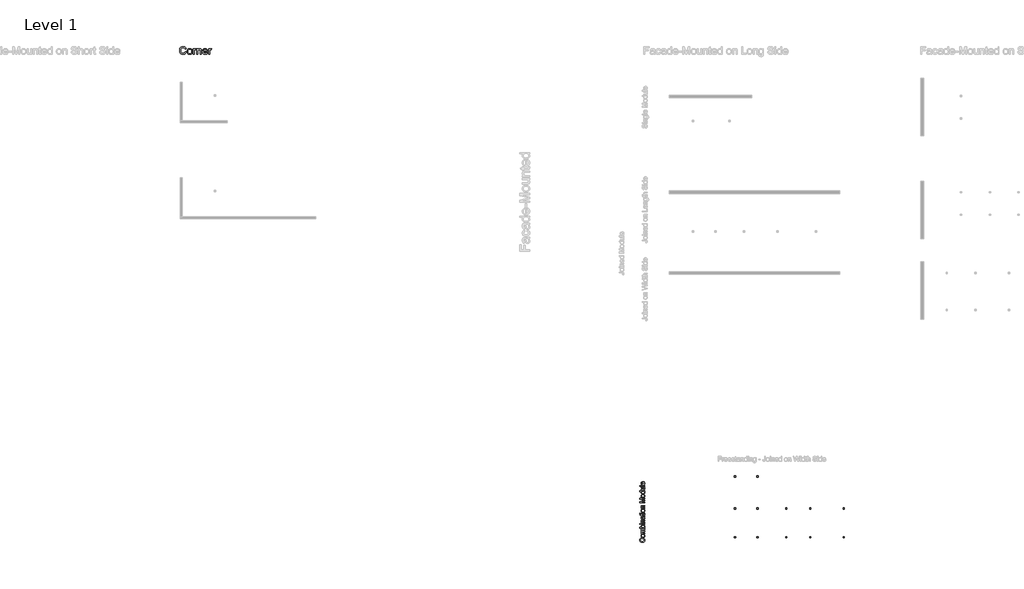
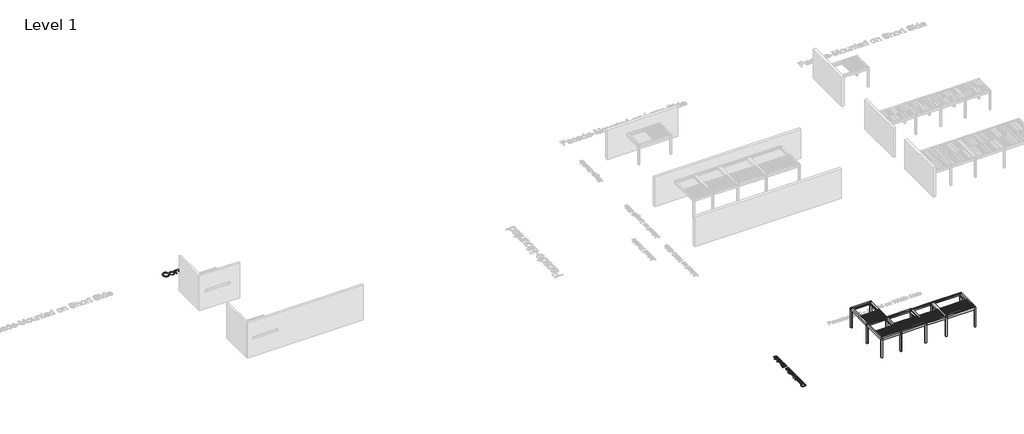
# One storey, part 14 of 69: 4 proxies.
"""IFC4 building model written with IfcOpenShell, lengths in millimetres."""

from ifc_helpers import new_model, si_unit, origin, origin_with_axes, place, context, project, spatial, polyline, outline, extrude, transform, mapped, element, save
from components import generic_models_b0ae86b7, generic_models_a6fa8a10

model = new_model("IFC4")

# Units and contexts
model_context = context("Model", 3, world=origin())
ifc_project = project(units=[si_unit("LENGTHUNIT", "METRE", prefix="MILLI")], contexts=[model_context])

# Site, building, storey
site = spatial("IfcSite", under=ifc_project)
building = spatial("IfcBuilding", under=site)
storey = spatial("IfcBuildingStorey", under=building, Name="Level 1", Elevation=0.0)

# Proxies
placement = place(None, origin())
generic_models_shape = generic_models_b0ae86b7(model_context)
element("IfcBuildingElementProxy", 1, Name="Renson_Camargue_Skye_Facade-Mounted_Patio covers : Renson_Camargue_Skye_Facade-Mounted_Patio covers", ObjectType="Renson_Camargue_Skye_Facade-Mounted_Patio covers : Renson_Camargue_Skye_Facade-Mounted_Patio covers", at=placement, inside=storey, context=model_context, shape_type="MappedRepresentation", body=[
    mapped(generic_models_shape, transform((95863.165057, -54081.4138599, 0.0), x_axis=(1.0, 0.0, 0.0), y_axis=(0.0, 1.0, 0.0), z_axis=(0.0, 0.0, 1.0))),
])
generic_models_2_shape = generic_models_a6fa8a10(model_context)
element("IfcBuildingElementProxy", 2, Name="Renson_Camargue_Skye_Freestanding_Patio covers : Renson_Camargue_Skye_Freestanding_Patio covers", ObjectType="Renson_Camargue_Skye_Freestanding_Patio covers : Renson_Camargue_Skye_Freestanding_Patio covers", at=placement, inside=storey, context=model_context, shape_type="MappedRepresentation", body=[
    mapped(generic_models_2_shape, transform((93188.165057, -50906.4138599, 0.0), x_axis=(0.0, -1.0, 0.0), y_axis=(1.0, 0.0, 0.0), z_axis=(0.0, 0.0, 1.0))),
])
element("IfcBuildingElementProxy", 3, Name="500mm Arial", ObjectType="500mm Arial", at=placement, inside=storey, context=model_context, shape_type="SweptSolid", body=[
    extrude(outline(polyline([(82403.8045167, -55731.447711), (82419.9913244, -55668.6625171), (82459.0366333, -55681.0861987), (82493.1538562, -55697.6332242), (82522.3429933, -55718.3035938), (82546.6040445, -55743.0973075), (82565.6764266, -55771.4548779), (82579.2995568, -55802.816818), (82587.4734349, -55837.1831277), (82590.1980609, -55874.5538071), (82588.1363889, -55912.8403593), (82581.9513728, -55947.3791137), (82571.6430127, -55978.1700703), (82557.2113086, -56005.213229), (82538.8708583, -56028.8803041), (82516.8362597, -56049.5430095), (82491.1075126, -56067.2013452), (82461.6846172, -56081.8553114), (82429.839832, -56093.36312), (82396.8454156, -56101.5829834), (82362.7013679, -56106.5149014), (82327.407689, -56108.158874), (82289.5388361, -56106.3003035), (82254.1685151, -56100.724592), (82221.296726, -56091.4317395), (82190.9234688, -56078.4217461), (82163.5507491, -56061.9858515), (82139.6805725, -56042.4152958), (82119.3129392, -56019.7100789), (82102.4478489, -55993.8702008), (82089.2232576, -55965.7732135), (82079.777121, -55936.2966686), (82074.109439, -55905.4405663), (82072.2202117, -55873.2049064), (82074.6650941, -55837.2942588), (82081.9997414, -55804.3649881), (82094.2241535, -55774.4170944), (82111.3383305, -55747.4505777), (82132.890084, -55723.9099622), (82158.4272259, -55704.2397717), (82187.949756, -55688.4400065), (82221.4576744, -55676.5106663), (82236.4182089, -55739.2958602), (82211.727962, -55749.1826888), (82190.6322289, -55761.0622116), (82173.1310094, -55774.9344285), (82159.2243035, -55790.7993395), (82148.6285357, -55808.7489152), (82141.06013, -55828.875126), (82136.5190866, -55851.177972), (82135.0054055, -55875.6574531), (82136.6838671, -55903.8234183), (82141.7192519, -55929.5828222), (82150.1115599, -55952.9356647), (82161.8607912, -55973.8819458), (82176.4381152, -55992.1572503), (82193.3147018, -56007.4971631), (82212.4905508, -56019.9016841), (82233.9656622, -56029.3708134), (82279.9202548, -56041.3729635), (82327.2850617, -56045.3736802), (82385.2877896, -56040.6371995), (82435.4423682, -56026.4277574), (82457.0975886, -56015.6365522), (82475.8327456, -56002.2088594), (82491.6478393, -55986.1446789), (82504.5428697, -55967.4440109), (82521.6953677, -55925.7660465), (82527.412867, -55880.807801), (82525.4661581, -55853.5117234), (82519.6260315, -55828.3999451), (82509.892487, -55805.4724662), (82496.2655248, -55784.7292866), (82478.8064584, -55766.6609157), (82457.5766016, -55751.7578628), (82432.5759544, -55740.0201279), (82403.8045167, -55731.447711)])), origin_with_axes(), (0.0, 0.0, 1.0), 5.0),
    extrude(outline(polyline([(82397.9184047, -55605.8773233), (82350.1473948, -55602.482079), (82308.9829324, -55592.2963463), (82274.4250175, -55575.320125), (82246.4736501, -55551.5534153), (82228.6083807, -55527.6257572), (82215.847474, -55501.2148956), (82208.1909299, -55472.3208306), (82205.6387486, -55440.9435621), (82208.746585, -55406.305173), (82218.0700943, -55374.985386), (82233.6092765, -55346.9842013), (82255.3641316, -55322.3016187), (82282.5988956, -55302.1562473), (82314.5778044, -55287.7666964), (82351.3008582, -55279.1329658), (82392.7680568, -55276.2550556), (82456.1970441, -55281.3440899), (82482.2323595, -55287.7053827), (82504.481556, -55296.6111927), (82523.6995581, -55307.9503887), (82540.6412904, -55321.6118399), (82555.3067529, -55337.5955462), (82567.6959455, -55355.9015075), (82584.572532, -55396.6291101), (82590.1980609, -55440.9435621), (82587.1017208, -55476.0877889), (82577.8127004, -55507.6988158), (82562.3309997, -55535.7766427), (82540.6566189, -55560.3212695), (82513.1574397, -55580.252043), (82480.2013443, -55594.4883098), (82441.7883327, -55603.0300699), (82397.9184047, -55605.8773233)]), holes=[polyline([(82397.7957774, -55543.0921294), (82428.2495088, -55541.2757121), (82454.6182172, -55535.82646), (82476.9019027, -55526.7443733), (82495.1005651, -55514.0294518), (82509.2371972, -55498.5630796), (82519.3347916, -55481.2266406), (82525.3933482, -55462.0201347), (82527.412867, -55440.9435621), (82525.3818519, -55419.9742884), (82519.2888063, -55400.8444246), (82509.1337304, -55383.5539708), (82494.9166241, -55368.1029271), (82476.5378528, -55355.3880056), (82453.8977817, -55346.3059188), (82426.9964108, -55340.8566668), (82395.8337401, -55339.0402494), (82366.3456989, -55340.8681631), (82340.6667692, -55346.3519041), (82318.796951, -55355.4914724), (82300.7362443, -55368.286868), (82286.5996123, -55383.7953934), (82276.5020179, -55401.0743509), (82270.4434613, -55420.1237404), (82268.4239424, -55440.9435621), (82270.4357971, -55462.0201347), (82276.4713611, -55481.2266406), (82286.5306344, -55498.5630796), (82300.613617, -55514.0294518), (82318.75863, -55526.7443733), (82341.0039944, -55535.82646), (82367.3497102, -55541.2757121), (82397.7957774, -55543.0921294)])]), origin_with_axes(), (0.0, 0.0, 1.0), 5.0),
    extrude(outline(polyline([(82582.3499117, -55205.6217125), (82213.4868978, -55205.6217125), (82213.4868978, -55142.8365187), (82274.187427, -55142.8365187), (82246.3050375, -55123.9519096), (82224.462044, -55099.6716979), (82210.3445724, -55070.8236181), (82205.6387486, -55038.2354047), (82210.4365429, -55003.317272), (82224.829926, -54975.3275835), (82247.868536, -54954.4196235), (82278.602011, -54940.746676), (82246.6805837, -54917.8613502), (82223.8795642, -54891.757057), (82210.1989525, -54862.4337963), (82205.6387486, -54829.8915681), (82207.5356401, -54804.7567972), (82213.2263147, -54782.6953738), (82222.7107724, -54763.7072979), (82235.9890132, -54747.7925695), (82253.2143212, -54735.2117717), (82274.5399806, -54726.2254876), (82299.9659914, -54720.8337171), (82329.4923536, -54719.0364602), (82582.3499117, -54719.0364602), (82582.3499117, -54781.8216541), (82356.4703666, -54781.8216541), (82325.1544118, -54783.2778536), (82304.0471823, -54787.6464523), (82289.5924856, -54795.8318267), (82278.234129, -54808.7383534), (82270.8764891, -54825.3390284), (82268.4239424, -54844.6068479), (82269.9951051, -54862.3993073), (82274.7085932, -54878.6206041), (82282.5644066, -54893.2707381), (82293.5625454, -54906.3497094), (82308.0249064, -54917.1064257), (82326.2733862, -54924.7897944), (82348.3079848, -54929.3998157), (82374.1287024, -54930.9364895), (82582.3499117, -54930.9364895), (82582.3499117, -54993.7216833), (82349.4806087, -54993.7216833), (82313.9799962, -54997.354518), (82288.6574522, -55008.2530221), (82279.8052917, -55016.6798191), (82273.4823199, -55027.4288711), (82268.4239424, -55055.8937405), (82271.7961941, -55080.0819817), (82281.9129489, -55102.3694992), (82298.5289524, -55120.763599), (82321.3989497, -55133.2715868), (82353.1287718, -55140.4452857), (82396.3242494, -55142.8365187), (82582.3499117, -55142.8365187), (82582.3499117, -55205.6217125)])), origin_with_axes(), (0.0, 0.0, 1.0), 5.0),
    extrude(outline(polyline([(82582.3499117, -54562.0734756), (82582.3499117, -54624.8586695), (82080.0683609, -54624.8586695), (82080.0683609, -54562.0734756), (82266.3392778, -54562.0734756), (82239.7827963, -54541.4260986), (82220.8138809, -54518.1115772), (82209.4325317, -54492.1299113), (82205.6387486, -54463.4811009), (82209.0569855, -54431.1381422), (82219.3116961, -54400.5732797), (82235.7590869, -54373.5339531), (82257.7553646, -54351.7676017), (82285.0859311, -54334.7070742), (82317.5361888, -54321.7852191), (82353.7572369, -54313.64583), (82392.4001748, -54310.9327002), (82436.9905383, -54313.7416326), (82476.215956, -54322.1684295), (82510.076428, -54336.2130911), (82538.5719542, -54355.8756173), (82561.1583759, -54379.4775466), (82577.2915342, -54405.3404173), (82586.9714292, -54433.4642294), (82590.1980609, -54463.8489829), (82586.0363958, -54493.4404909), (82573.5514006, -54519.6750757), (82552.7430752, -54542.5527373), (82523.6114198, -54562.0734756), (82582.3499117, -54562.0734756)]), holes=[polyline([(82395.3432308, -54562.0734756), (82447.7051014, -54557.781519), (82467.5400723, -54552.4165732), (82483.1444003, -54544.9056492), (82502.5118545, -54529.6921958), (82516.3457503, -54512.0108674), (82524.6460879, -54491.861664), (82527.412867, -54469.2445855), (82525.3741876, -54450.4672753), (82519.2581495, -54433.008209), (82509.0647525, -54416.8673864), (82494.7939968, -54402.0448077), (82476.4842033, -54389.651783), (82454.1736932, -54380.7996225), (82427.8624663, -54375.4883262), (82397.5505227, -54373.7178941), (82366.6637636, -54375.4155162), (82340.0996178, -54380.5083826), (82317.8580855, -54388.9964932), (82299.9391667, -54400.8798481), (82286.1512561, -54415.1697643), (82276.3027485, -54430.8775591), (82270.3936439, -54448.0032324), (82268.4239424, -54466.5467842), (82270.4626218, -54485.3240944), (82276.57866, -54502.7831607), (82286.7720569, -54518.9239833), (82301.0428127, -54533.746562), (82319.1686651, -54546.1395867), (82340.9273523, -54554.9917472), (82366.3188742, -54560.3030435), (82395.3432308, -54562.0734756)])]), origin_with_axes(), (0.0, 0.0, 1.0), 5.0),
    extrude(outline(polyline([(82582.3499117, -54240.2993572), (82213.4868978, -54240.2993572), (82213.4868978, -54177.5141633), (82582.3499117, -54177.5141633), (82582.3499117, -54240.2993572)])), origin_with_axes(), (0.0, 0.0, 1.0), 5.0),
    extrude(outline(polyline([(82142.8535547, -54240.2993572), (82080.0683609, -54240.2993572), (82080.0683609, -54177.5141633), (82142.8535547, -54177.5141633), (82142.8535547, -54240.2993572)])), origin_with_axes(), (0.0, 0.0, 1.0), 5.0),
    extrude(outline(polyline([(82582.3499117, -54083.3363726), (82213.4868978, -54083.3363726), (82213.4868978, -54020.5511787), (82264.9903771, -54020.5511787), (82239.0240397, -53998.7388421), (82220.4766557, -53972.5425783), (82209.3482254, -53941.9623875), (82205.6387486, -53906.9982695), (82208.6277898, -53876.0501967), (82217.5949134, -53847.7079547), (82231.4211451, -53824.0715365), (82248.9875104, -53807.2409352), (82270.248024, -53795.8212649), (82295.1567007, -53788.4176398), (82355.85723, -53785.1067018), (82582.3499117, -53785.1067018), (82582.3499117, -53847.8918957), (82364.3185158, -53847.8918957), (82331.8529298, -53849.7006488), (82308.7683346, -53855.1269082), (82292.2289732, -53865.1363642), (82279.3990886, -53880.6947069), (82271.167729, -53900.6369767), (82268.4239424, -53923.798214), (82269.9644483, -53942.862932), (82274.5859659, -53960.5710851), (82282.2884951, -53976.9226734), (82293.0720361, -53991.9176968), (82308.1628621, -54004.4448451), (82328.7872465, -54013.3928082), (82354.9451892, -54018.7615861), (82386.6366902, -54020.5511787), (82582.3499117, -54020.5511787), (82582.3499117, -54083.3363726)])), origin_with_axes(), (0.0, 0.0, 1.0), 5.0),
    extrude(outline(polyline([(82535.2610163, -53463.3325834), (82560.9820991, -53493.3302944), (82577.8127004, -53524.2170536), (82587.1017208, -53556.6979681), (82590.1980609, -53591.478145), (82588.3356583, -53619.4333445), (82582.7484505, -53643.9473146), (82573.4364375, -53665.0200551), (82560.3996193, -53682.6515661), (82544.4657304, -53696.5736004), (82526.4625052, -53706.5179106), (82506.3899439, -53712.4844967), (82484.2480463, -53714.4733587), (82458.2203951, -53711.4689891), (82434.5839769, -53702.4558802), (82414.3504672, -53688.5530065), (82398.5315414, -53670.8793423), (82386.5753766, -53650.109338), (82377.9301497, -53626.9174439), (82368.4878451, -53572.5935359), (82358.5550313, -53508.3981278), (82346.9054347, -53463.7004654), (82332.9259189, -53463.3325834), (82304.9055736, -53467.6551968), (82286.5727875, -53480.6230371), (82278.6326678, -53493.6981764), (82272.9611537, -53509.6244011), (82268.4239424, -53550.0301069), (82271.4436405, -53587.4314431), (82280.5027346, -53613.5510647), (82297.2566938, -53631.3626847), (82323.360987, -53643.8400157), (82315.5128378, -53706.6252095), (82281.1771849, -53695.7267054), (82254.199172, -53679.4632555), (82233.5671234, -53656.3173467), (82218.2693638, -53624.7714656), (82208.7964024, -53586.1898413), (82205.6387486, -53541.936703), (82208.4285204, -53499.4923178), (82216.7978358, -53465.8464437), (82229.3824657, -53440.4779144), (82244.8181811, -53422.8655639), (82263.9020596, -53411.1853105), (82287.4311789, -53403.6130728), (82342.3682235, -53400.5473895), (82420.4818338, -53400.5473895), (82529.5588453, -53397.3590789), (82556.5215299, -53392.6379266), (82582.3499117, -53384.8510911), (82582.3499117, -53447.6362849), (82560.5222466, -53457.6917261), (82535.2610163, -53463.3325834)]), holes=[polyline([(82409.6906286, -53463.3325834), (82420.1446086, -53505.5163855), (82428.9431197, -53564.6227594), (82439.1211882, -53618.640099), (82446.0802893, -53632.6962569), (82455.675878, -53643.1042517), (82467.1721903, -53649.5421866), (82479.8334623, -53651.6881649), (82498.5034736, -53647.0129979), (82513.8012332, -53632.9874968), (82524.0099586, -53609.91823), (82527.412867, -53578.1117659), (82523.657405, -53544.3892496), (82512.3910189, -53514.590808), (82495.7903439, -53490.4332237), (82476.032015, -53473.6332792), (82455.675878, -53466.1836688), (82427.4715917, -53463.7004654), (82409.6906286, -53463.3325834)])]), origin_with_axes(), (0.0, 0.0, 1.0), 5.0),
    extrude(outline(polyline([(82529.988041, -53180.7992111), (82584.1893216, -53172.9510618), (82590.1980609, -53219.9173299), (82587.5922301, -53250.0529967), (82579.7747377, -53272.5244552), (82567.7266023, -53288.4046947), (82552.4288427, -53298.7667042), (82526.1559369, -53304.4688751), (82481.182363, -53306.3695987), (82276.2720917, -53306.3695987), (82276.2720917, -53353.4584941), (82213.4868978, -53353.4584941), (82213.4868978, -53306.3695987), (82123.8463183, -53306.3695987), (82086.9354915, -53243.5844049), (82213.4868978, -53243.5844049), (82213.4868978, -53180.7992111), (82276.2720917, -53180.7992111), (82276.2720917, -53243.5844049), (82479.342953, -53243.5844049), (82511.7165686, -53240.2734669), (82523.1822241, -53229.5435754), (82527.412867, -53208.145106), (82529.988041, -53180.7992111)])), origin_with_axes(), (0.0, 0.0, 1.0), 5.0),
    extrude(outline(polyline([(82582.3499117, -53118.0140172), (82213.4868978, -53118.0140172), (82213.4868978, -53055.2288234), (82582.3499117, -53055.2288234), (82582.3499117, -53118.0140172)])), origin_with_axes(), (0.0, 0.0, 1.0), 5.0),
    extrude(outline(polyline([(82142.8535547, -53118.0140172), (82080.0683609, -53118.0140172), (82080.0683609, -53055.2288234), (82142.8535547, -53055.2288234), (82142.8535547, -53118.0140172)])), origin_with_axes(), (0.0, 0.0, 1.0), 5.0),
    extrude(outline(polyline([(82397.9184047, -52976.7473311), (82350.1473948, -52973.3520868), (82308.9829324, -52963.1663541), (82274.4250175, -52946.1901328), (82246.4736501, -52922.4234231), (82228.6083807, -52898.495765), (82215.847474, -52872.0849034), (82208.1909299, -52843.1908384), (82205.6387486, -52811.8135699), (82208.746585, -52777.1751808), (82218.0700943, -52745.8553938), (82233.6092765, -52717.8542091), (82255.3641316, -52693.1716265), (82282.5988956, -52673.0262551), (82314.5778044, -52658.6367042), (82351.3008582, -52650.0029736), (82392.7680568, -52647.1250634), (82456.1970441, -52652.2140977), (82482.2323595, -52658.5753905), (82504.481556, -52667.4812005), (82523.6995581, -52678.8203965), (82540.6412904, -52692.4818477), (82555.3067529, -52708.465554), (82567.6959455, -52726.7715153), (82584.572532, -52767.4991179), (82590.1980609, -52811.8135699), (82587.1017208, -52846.9577968), (82577.8127004, -52878.5688236), (82562.3309997, -52906.6466505), (82540.6566189, -52931.1912773), (82513.1574397, -52951.1220508), (82480.2013443, -52965.3583176), (82441.7883327, -52973.9000777), (82397.9184047, -52976.7473311)]), holes=[polyline([(82397.7957774, -52913.9621372), (82428.2495088, -52912.1457199), (82454.6182172, -52906.6964678), (82476.9019027, -52897.6143811), (82495.1005651, -52884.8994596), (82509.2371972, -52869.4330874), (82519.3347916, -52852.0966484), (82525.3933482, -52832.8901425), (82527.412867, -52811.8135699), (82525.3818519, -52790.8442962), (82519.2888063, -52771.7144324), (82509.1337304, -52754.4239787), (82494.9166241, -52738.9729349), (82476.5378528, -52726.2580134), (82453.8977817, -52717.1759266), (82426.9964108, -52711.7266746), (82395.8337401, -52709.9102572), (82366.3456989, -52711.7381709), (82340.6667692, -52717.2219119), (82318.796951, -52726.3614802), (82300.7362443, -52739.1568759), (82286.5996123, -52754.6654012), (82276.5020179, -52771.9443587), (82270.4434613, -52790.9937482), (82268.4239424, -52811.8135699), (82270.4357971, -52832.8901425), (82276.4713611, -52852.0966484), (82286.5306344, -52869.4330874), (82300.613617, -52884.8994596), (82318.75863, -52897.6143811), (82341.0039944, -52906.6964678), (82367.3497102, -52912.1457199), (82397.7957774, -52913.9621372)])]), origin_with_axes(), (0.0, 0.0, 1.0), 5.0),
    extrude(outline(polyline([(82582.3499117, -52576.4917203), (82213.4868978, -52576.4917203), (82213.4868978, -52513.7065265), (82264.9903771, -52513.7065265), (82239.0240397, -52491.8941898), (82220.4766557, -52465.6979261), (82209.3482254, -52435.1177353), (82205.6387486, -52400.1536173), (82208.6277898, -52369.2055445), (82217.5949134, -52340.8633024), (82231.4211451, -52317.2268842), (82248.9875104, -52300.3962829), (82270.248024, -52288.9766127), (82295.1567007, -52281.5729875), (82355.85723, -52278.2620496), (82582.3499117, -52278.2620496), (82582.3499117, -52341.0472434), (82364.3185158, -52341.0472434), (82331.8529298, -52342.8559965), (82308.7683346, -52348.282256), (82292.2289732, -52358.2917119), (82279.3990886, -52373.8500546), (82271.167729, -52393.7923245), (82268.4239424, -52416.9535617), (82269.9644483, -52436.0182797), (82274.5859659, -52453.7264328), (82282.2884951, -52470.0780211), (82293.0720361, -52485.0730445), (82308.1628621, -52497.6001929), (82328.7872465, -52506.548156), (82354.9451892, -52511.9169339), (82386.6366902, -52513.7065265), (82582.3499117, -52513.7065265), (82582.3499117, -52576.4917203)])), origin_with_axes(), (0.0, 0.0, 1.0), 5.0),
    extrude(outline(polyline([(82582.3499117, -51987.880528), (82080.0683609, -51987.880528), (82080.0683609, -51879.8458488), (82434.0934676, -51777.0841448), (82508.0377486, -51756.3601257), (82427.962101, -51733.919324), (82080.0683609, -51632.8744027), (82080.0683609, -51524.8397234), (82582.3499117, -51524.8397234), (82582.3499117, -51587.6249173), (82142.8535547, -51587.6249173), (82582.3499117, -51713.8084416), (82582.3499117, -51798.9118098), (82142.8535547, -51925.0953342), (82582.3499117, -51925.0953342), (82582.3499117, -51987.880528)])), origin_with_axes(), (0.0, 0.0, 1.0), 5.0),
    extrude(outline(polyline([(82397.9184047, -51438.5100819), (82350.1473948, -51435.1148377), (82308.9829324, -51424.9291049), (82274.4250175, -51407.9528837), (82246.4736501, -51384.186174), (82228.6083807, -51360.2585158), (82215.847474, -51333.8476543), (82208.1909299, -51304.9535892), (82205.6387486, -51273.5763207), (82208.746585, -51238.9379316), (82218.0700943, -51207.6181447), (82233.6092765, -51179.6169599), (82255.3641316, -51154.9343773), (82282.5988956, -51134.789006), (82314.5778044, -51120.399455), (82351.3008582, -51111.7657244), (82392.7680568, -51108.8878142), (82456.1970441, -51113.9768485), (82482.2323595, -51120.3381413), (82504.481556, -51129.2439513), (82523.6995581, -51140.5831474), (82540.6412904, -51154.2445985), (82555.3067529, -51170.2283048), (82567.6959455, -51188.5342662), (82584.572532, -51229.2618687), (82590.1980609, -51273.5763207), (82587.1017208, -51308.7205476), (82577.8127004, -51340.3315744), (82562.3309997, -51368.4094013), (82540.6566189, -51392.9540282), (82513.1574397, -51412.8848017), (82480.2013443, -51427.1210685), (82441.7883327, -51435.6628285), (82397.9184047, -51438.5100819)]), holes=[polyline([(82397.7957774, -51375.7248881), (82428.2495088, -51373.9084707), (82454.6182172, -51368.4592187), (82476.9019027, -51359.3771319), (82495.1005651, -51346.6622104), (82509.2371972, -51331.1958382), (82519.3347916, -51313.8593992), (82525.3933482, -51294.6528934), (82527.412867, -51273.5763207), (82525.3818519, -51252.607047), (82519.2888063, -51233.4771833), (82509.1337304, -51216.1867295), (82494.9166241, -51200.7356857), (82476.5378528, -51188.0207642), (82453.8977817, -51178.9386775), (82426.9964108, -51173.4894254), (82395.8337401, -51171.6730081), (82366.3456989, -51173.5009217), (82340.6667692, -51178.9846627), (82318.796951, -51188.124231), (82300.7362443, -51200.9196267), (82286.5996123, -51216.428152), (82276.5020179, -51233.7071095), (82270.4434613, -51252.7564991), (82268.4239424, -51273.5763207), (82270.4357971, -51294.6528934), (82276.4713611, -51313.8593992), (82286.5306344, -51331.1958382), (82300.613617, -51346.6622104), (82318.75863, -51359.3771319), (82341.0039944, -51368.4592187), (82367.3497102, -51373.9084707), (82397.7957774, -51375.7248881)])]), origin_with_axes(), (0.0, 0.0, 1.0), 5.0),
    extrude(outline(polyline([(82582.3499117, -50810.6581435), (82523.1209104, -50810.6581435), (82552.4671638, -50829.4431178), (82573.4287733, -50852.1981521), (82586.005739, -50878.9232462), (82590.1980609, -50909.6184002), (82584.128008, -50950.208047), (82565.9178492, -50987.3641285), (82536.8398432, -51018.8180391), (82498.1662484, -51042.3011731), (82451.4605635, -51056.9244824), (82398.2862867, -51061.7989188), (82345.7711319, -51057.3076928), (82298.3450114, -51043.8340147), (82277.2147893, -51033.7325883), (82258.7057264, -51021.393213), (82242.8178227, -51006.815889), (82229.5510783, -50990.0006161), (82211.616831, -50952.0321285), (82205.6387486, -50909.8636548), (82209.9153768, -50879.1455082), (82222.7452614, -50851.9835543), (82242.4116197, -50828.9602727), (82267.1976691, -50810.6581435), (82080.0683609, -50810.6581435), (82080.0683609, -50747.8729496), (82582.3499117, -50747.8729496), (82582.3499117, -50810.6581435)]), holes=[polyline([(82398.0410321, -50999.013725), (82428.4870993, -50997.2432929), (82454.8328151, -50991.9319966), (82477.0781795, -50983.0798361), (82495.2231925, -50970.6868114), (82509.3061751, -50955.8872253), (82519.3654484, -50939.8153806), (82525.4010124, -50922.4712774), (82527.412867, -50903.8549156), (82525.4929829, -50885.1504154), (82519.7333304, -50867.909779), (82510.1339096, -50852.1330063), (82496.6947204, -50837.8200974), (82479.3084641, -50825.9367426), (82457.8678415, -50817.448632), (82432.3728528, -50812.3557656), (82402.823498, -50810.6581435), (82370.4268898, -50812.3864224), (82342.644135, -50817.5712593), (82319.4752335, -50826.2126541), (82300.9201853, -50838.3106068), (82286.7030791, -50852.9377482), (82276.5480032, -50869.1667091), (82270.4549576, -50886.9974896), (82268.4239424, -50906.4300895), (82270.3744834, -50925.4143333), (82276.2261064, -50942.7584366), (82285.9788114, -50958.4623992), (82299.6325984, -50972.5262213), (82317.4863714, -50984.1145042), (82339.8390347, -50992.3918491), (82366.6905883, -50997.358256), (82398.0410321, -50999.013725)])]), origin_with_axes(), (0.0, 0.0, 1.0), 5.0),
    extrude(outline(polyline([(82582.3499117, -50418.2506819), (82518.9515811, -50418.2506819), (82550.121916, -50440.9673952), (82572.3864409, -50467.424242), (82585.7451559, -50497.6212224), (82590.1980609, -50531.5583365), (82587.0710639, -50562.1385273), (82577.690073, -50590.6033967), (82563.5879299, -50614.4850695), (82546.2974761, -50631.3156708), (82525.2975456, -50642.6433706), (82500.0669721, -50650.0163389), (82441.6963622, -50653.6951589), (82213.4868978, -50653.6951589), (82213.4868978, -50590.909965), (82412.1431752, -50590.909965), (82476.1546424, -50587.1085177), (82497.5071265, -50577.9574531), (82513.7399196, -50562.2764831), (82523.9946302, -50541.1079399), (82527.412867, -50515.494156), (82523.9179881, -50488.4088441), (82513.4333512, -50463.0709717), (82496.9246467, -50442.1783401), (82475.3575647, -50428.4287505), (82445.8197062, -50420.7951991), (82405.398672, -50418.2506819), (82213.4868978, -50418.2506819), (82213.4868978, -50355.4654881), (82582.3499117, -50355.4654881), (82582.3499117, -50418.2506819)])), origin_with_axes(), (0.0, 0.0, 1.0), 5.0),
    extrude(outline(polyline([(82582.3499117, -50269.1358466), (82080.0683609, -50269.1358466), (82080.0683609, -50206.3506527), (82582.3499117, -50206.3506527), (82582.3499117, -50269.1358466)])), origin_with_axes(), (0.0, 0.0, 1.0), 5.0),
    extrude(outline(polyline([(82472.4758224, -49853.9197013), (82480.3239717, -49792.3607808), (82504.9797295, -49801.7992533), (82526.7077599, -49814.5409994), (82545.5080627, -49830.5860194), (82561.3806379, -49849.9343131), (82573.9882605, -49872.3866111), (82582.9937051, -49897.743644), (82588.3969719, -49926.0054119), (82590.1980609, -49957.1719147), (82587.0902244, -49996.1290851), (82577.7667151, -50030.8402842), (82562.2275329, -50061.3055119), (82540.4726779, -50087.5247683), (82513.1076224, -50108.6090051), (82480.7378389, -50123.6691743), (82443.3633275, -50132.7052758), (82400.984088, -50135.7173097), (82357.1678096, -50132.674619), (82318.5478643, -50123.546547), (82285.1242522, -50108.3330936), (82256.8969733, -50087.034259), (82234.4715, -50060.8839805), (82218.4533048, -50031.1161957), (82208.8423876, -49997.7309046), (82205.6387486, -49960.7281073), (82208.8347234, -49924.9170943), (82218.4226479, -49892.5319824), (82234.4025221, -49863.5727716), (82256.7743459, -49838.0394619), (82284.9403112, -49817.1966476), (82318.3026096, -49802.3089231), (82356.8612412, -49793.3762884), (82400.616206, -49790.3987435), (82417.5387778, -49790.7666255), (82417.5387778, -50072.9321158), (82442.5930745, -50069.295449), (82464.5357027, -50062.0642685), (82483.3666623, -50051.2385744), (82499.0859534, -50036.8183666), (82511.4789781, -50019.6007228), (82520.3311386, -50000.3827207), (82525.6424349, -49979.1643602), (82527.412867, -49955.9456413), (82524.1325859, -49922.5296934), (82514.2917425, -49894.3867208), (82497.2772003, -49871.5167234), (82472.4758224, -49853.9197013)]), holes=[polyline([(82354.753584, -50072.9321158), (82354.753584, -49853.1839374), (82321.5828907, -49861.6758801), (82297.854502, -49878.3225404), (82284.9786322, -49895.4443816), (82275.7815823, -49914.9267989), (82270.2633524, -49936.7697923), (82268.4239424, -49960.9733619), (82274.2947259, -50003.2951198), (82281.6332053, -50021.7083801), (82291.9070765, -50038.2898946), (82304.6411584, -50052.2042646), (82319.3602703, -50062.6160915), (82336.0644122, -50069.5253752), (82354.753584, -50072.9321158)])]), origin_with_axes(), (0.0, 0.0, 1.0), 5.0),
])
element("IfcBuildingElementProxy", 4, Name="800mm Arial", ObjectType="800mm Arial", at=placement, inside=storey, context=model_context, shape_type="SweptSolid", body=[
    extrude(outline(polyline([(34625.6087096, -4887.2561585), (34725.5322968, -4913.0177083), (34705.7598194, -4975.158909), (34679.4249775, -5029.4569862), (34646.5277711, -5075.9119401), (34607.0682002, -5114.5237706), (34561.9366971, -5144.8777558), (34512.0236943, -5166.5591739), (34457.3291917, -5179.5680247), (34397.8531893, -5183.9043083), (34336.9195613, -5180.623126), (34281.9506104, -5170.7795793), (34232.9463365, -5154.373668), (34189.9067396, -5131.4053923), (34152.2402311, -5102.2162878), (34119.3552224, -5067.1478901), (34091.2517134, -5026.2001994), (34067.9297043, -4979.3732155), (34049.6148525, -4928.6917574), (34036.5328154, -4876.1806437), (34028.6835932, -4821.8398745), (34026.0671858, -4765.6694497), (34029.0251289, -4705.4005966), (34037.8989582, -4649.1081948), (34052.6886737, -4596.7922444), (34073.3942755, -4548.4527453), (34099.5522507, -4504.8886472), (34130.6990866, -4466.8988996), (34166.8347833, -4434.4835024), (34207.9593408, -4407.6424558), (34252.6761219, -4386.5953184), (34299.5884897, -4371.5616488), (34348.6964441, -4362.541447), (34399.9999851, -4359.5347131), (34457.152325, -4363.4257805), (34509.5597582, -4375.0989828), (34557.2222847, -4394.5543199), (34600.1399046, -4421.7917919), (34637.605151, -4456.0917342), (34668.9105571, -4496.7344824), (34694.0561229, -4543.7200364), (34713.0418484, -4597.0483962), (34613.1182611, -4620.8583135), (34597.3832236, -4581.5634116), (34578.4767831, -4547.9892326), (34556.3989397, -4520.1357766), (34531.1496934, -4498.0030435), (34502.5826718, -4481.1397184), (34470.5515023, -4469.0944862), (34435.0561851, -4461.8673469), (34396.09672, -4459.4583004), (34351.2701595, -4462.1295975), (34310.273678, -4470.1434887), (34273.1072753, -4483.4999741), (34239.7709516, -4502.1990536), (34210.6855275, -4525.3990857), (34186.2718239, -4552.2584288), (34166.5298408, -4582.7770831), (34151.4595781, -4616.9550483), (34140.3169759, -4653.2432163), (34132.3579743, -4690.0924787), (34127.5825734, -4727.5028354), (34125.9907731, -4765.4742865), (34127.8753183, -4813.1917027), (34133.5289539, -4857.7865068), (34142.9516798, -4899.2586988), (34156.1434962, -4937.6082787), (34173.3178628, -4972.07289), (34194.6882394, -5001.8901762), (34220.2546259, -5027.0601375), (34250.0170225, -5047.5827737), (34282.5300013, -5063.5068756), (34316.3481343, -5074.8812342), (34351.4714216, -5081.7058493), (34387.8998632, -5083.980721), (34431.3419843, -5080.8825043), (34471.3077599, -5071.5878542), (34507.79719, -5056.0967707), (34540.8102746, -5034.4092538), (34569.5663607, -5006.6228852), (34593.2847952, -4972.8352464), (34611.9655782, -4933.0463375), (34625.6087096, -4887.2561585)])), origin_with_axes(), (0.0, 0.0, 1.0), 5.0),
    extrude(outline(polyline([(34825.4558841, -4877.8883222), (34830.8594668, -4801.8600361), (34837.6139451, -4767.7888007), (34847.0702148, -4736.3461705), (34859.2282758, -4707.5321453), (34874.0881281, -4681.3467253), (34891.6497718, -4657.7899103), (34911.9132067, -4636.8617005), (34949.9944371, -4608.4288536), (34992.0277235, -4588.1196772), (35038.0130658, -4575.9341714), (35087.950464, -4571.8723361), (35143.0779851, -4576.8185049), (35192.9239006, -4591.6570112), (35237.4882104, -4616.3878551), (35276.7709146, -4651.0110366), (35308.8325784, -4694.3555761), (35331.7337667, -4745.250494), (35345.4744797, -4803.6957905), (35350.0547174, -4869.6914654), (35348.0298986, -4923.1783954), (35341.9554423, -4970.6396598), (35331.8313484, -5012.0752587), (35317.6576169, -5047.485192), (35299.6111145, -5078.0709336), (35277.868708, -5105.0339573), (35252.4303972, -5128.374263), (35223.2961824, -5148.0918507), (35191.6004498, -5163.7598009), (35158.4775858, -5174.9511939), (35123.9275906, -5181.6660297), (35087.950464, -5183.9043083), (35032.0178945, -5178.9764361), (34981.7084663, -5164.1928194), (34937.0221794, -5139.5534583), (34897.9590339, -5105.0583527), (34866.2389059, -5061.2929924), (34843.5816716, -5008.8428673), (34829.987331, -4947.7079772), (34825.4558841, -4877.8883222)]), holes=[polyline([(34925.3794714, -4877.6931589), (34928.2703272, -4926.1607339), (34936.9428944, -4968.1269329), (34951.3971731, -5003.5917559), (34971.6331632, -5032.5552029), (34996.2481289, -5055.0538671), (35023.8393343, -5071.1243415), (35054.4067793, -5080.7666261), (35087.950464, -5083.980721), (35121.3233809, -5080.7483295), (35151.7688489, -5071.0511552), (35179.286868, -5054.8891981), (35203.8774384, -5032.262458), (35224.1134285, -5003.012365), (35238.5677072, -4966.9803488), (35247.2402744, -4924.1664094), (35250.1311301, -4874.5705468), (35247.2219778, -4827.6398825), (35238.494521, -4786.7714768), (35223.9487595, -4751.9653298), (35203.5846935, -4723.2214415), (35178.9026404, -4700.7227773), (35151.4029178, -4684.6523029), (35121.0855257, -4675.0100183), (35087.950464, -4671.7959234), (35054.4067793, -4674.9978206), (35023.8393343, -4684.6035121), (34996.2481289, -4700.612998), (34971.6331632, -4723.0262782), (34951.3971731, -4751.9043413), (34936.9428944, -4787.3081758), (34928.2703272, -4829.2377817), (34925.3794714, -4877.6931589)])]), origin_with_axes(), (0.0, 0.0, 1.0), 5.0),
    extrude(outline(polyline([(35462.4687531, -5171.4138599), (35462.4687531, -4584.3627845), (35549.901892, -4584.3627845), (35549.901892, -4671.2104336), (35582.2014109, -4620.8583135), (35597.3997495, -4603.4399928), (35611.9638076, -4591.1934985), (35641.8237858, -4576.7026267), (35674.4160496, -4571.8723361), (35699.2017832, -4573.7995733), (35724.18268, -4579.5812847), (35749.3587401, -4589.2174705), (35774.7299634, -4602.7081306), (35741.3570466, -4692.2880653), (35706.2276604, -4676.9189589), (35671.0982743, -4671.7959234), (35641.2626914, -4676.7237956), (35614.5985115, -4691.5074123), (35593.0573671, -4715.0245847), (35578.5908907, -4746.1531241), (35566.441978, -4801.9698154), (35562.3923404, -4862.8607514), (35562.3923404, -5171.4138599), (35462.4687531, -5171.4138599)])), origin_with_axes(), (0.0, 0.0, 1.0), 5.0),
    extrude(outline(polyline([(35837.1822055, -5171.4138599), (35837.1822055, -4584.3627845), (35937.1057928, -4584.3627845), (35937.1057928, -4666.3313522), (35953.5909891, -4644.1925203), (35971.820457, -4625.0055327), (35991.7941965, -4608.7703893), (36013.5122077, -4595.4870901), (36036.9744904, -4585.1556352), (36062.1810447, -4577.7760246), (36117.8269682, -4571.8723361), (36167.0812951, -4576.6294405), (36212.1884027, -4590.9007536), (36249.8061204, -4612.9054108), (36276.5922773, -4640.8625473), (36294.7668556, -4674.6989768), (36306.5498372, -4714.3415133), (36310.5018931, -4752.2519759), (36311.8192451, -4810.9473252), (36311.8192451, -5171.4138599), (36211.8956578, -5171.4138599), (36211.8956578, -4824.4135899), (36209.0169998, -4772.7441178), (36200.3810257, -4736.0046348), (36184.4508249, -4709.6819906), (36159.6894867, -4689.2630349), (36127.9510622, -4676.1627013), (36091.0896021, -4671.7959234), (36060.7478146, -4674.2476618), (36032.5650206, -4681.602877), (36006.5412201, -4693.8615691), (35982.6764131, -4711.0237379), (35962.7392667, -4735.0410162), (35948.4984479, -4767.8650364), (35939.9539565, -4809.4957985), (35937.1057928, -4859.9333026), (35937.1057928, -5171.4138599), (35837.1822055, -5171.4138599)])), origin_with_axes(), (0.0, 0.0, 1.0), 5.0),
    extrude(outline(polyline([(36860.2279957, -4996.5475821), (36958.1999504, -5009.0380305), (36943.1784785, -5048.2780428), (36922.8997964, -5082.8585323), (36897.3639041, -5112.779499), (36866.5708015, -5138.040943), (36830.837629, -5158.1061653), (36790.4815269, -5172.438467), (36745.5024952, -5181.0378479), (36695.9005338, -5183.9043083), (36633.8996067, -5178.9581395), (36578.6562075, -5164.1196332), (36530.170336, -5139.3887893), (36488.4419922, -5104.7656078), (36454.8861098, -5061.2137074), (36430.9176224, -5009.6967065), (36416.5365299, -4950.2146053), (36411.7428324, -4882.7674036), (36416.5853207, -4813.0331325), (36431.1127856, -4751.5689045), (36455.3252271, -4698.3747194), (36471.0633141, -4674.878893), (36489.2226452, -4653.4505773), (36530.8412096, -4617.7600968), (36578.2170901, -4592.2668964), (36631.3502867, -4576.9709762), (36690.2407993, -4571.8723361), (36747.2345691, -4576.9587785), (36798.7759653, -4592.2181056), (36844.8649881, -4617.6503174), (36885.5016374, -4653.255414), (36918.6732921, -4698.0819745), (36942.3673312, -4751.178578), (36956.5837547, -4812.5452244), (36961.3225625, -4882.1819138), (36960.7370727, -4909.1144432), (36511.6664197, -4909.1144432), (36517.45423, -4948.9887361), (36528.9627633, -4983.9107612), (36546.1920195, -5013.8805188), (36569.1419987, -5038.8980087), (36596.5441397, -5058.6216954), (36627.1298813, -5072.7100429), (36660.8992235, -5081.1630515), (36697.8521663, -5083.980721), (36751.0341537, -5078.7601039), (36795.8241211, -5063.0982525), (36815.0720972, -5051.10791), (36832.2220684, -5036.0193507), (36847.2740345, -5017.8325748), (36860.2279957, -4996.5475821)]), holes=[polyline([(36511.6664197, -4809.1908559), (36861.3989752, -4809.1908559), (36856.263742, -4780.9165792), (36847.8839197, -4756.3991951), (36836.2595083, -4735.6387037), (36821.3905077, -4718.6351049), (36794.140838, -4698.142963), (36763.1342756, -4683.5057188), (36728.3708206, -4674.7233722), (36689.8504728, -4671.7959234), (36654.7149878, -4674.1317836), (36622.4947539, -4681.1393643), (36593.1897712, -4692.8186654), (36566.8000396, -4709.169687), (36544.6551089, -4729.4361714), (36528.0845286, -4752.861861), (36517.0882989, -4779.4467559), (36511.6664197, -4809.1908559)])]), origin_with_axes(), (0.0, 0.0, 1.0), 5.0),
    extrude(outline(polyline([(37061.2461498, -5171.4138599), (37061.2461498, -4584.3627845), (37148.6792887, -4584.3627845), (37148.6792887, -4671.2104336), (37180.9788076, -4620.8583135), (37196.1771462, -4603.4399928), (37210.7412042, -4591.1934985), (37240.6011825, -4576.7026267), (37273.1934463, -4571.8723361), (37297.9791799, -4573.7995733), (37322.9600767, -4579.5812847), (37348.1361368, -4589.2174705), (37373.5073601, -4602.7081306), (37340.1344433, -4692.2880653), (37305.0050571, -4676.9189589), (37269.8756709, -4671.7959234), (37240.0400881, -4676.7237956), (37213.3759082, -4691.5074123), (37191.8347638, -4715.0245847), (37177.3682874, -4746.1531241), (37165.2193747, -4801.9698154), (37161.1697371, -4862.8607514), (37161.1697371, -5171.4138599), (37061.2461498, -5171.4138599)])), origin_with_axes(), (0.0, 0.0, 1.0), 5.0),
])

save(model, "model.ifc")
